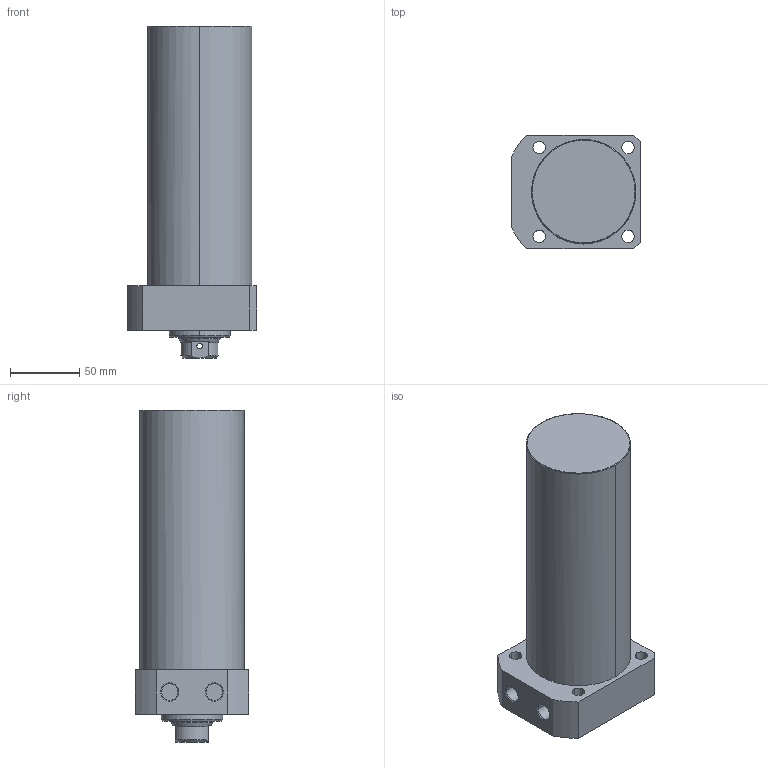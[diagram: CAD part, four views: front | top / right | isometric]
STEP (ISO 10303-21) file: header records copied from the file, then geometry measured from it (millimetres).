
FILE_DESCRIPTION((' '),'2;1');
FILE_NAME( 'TLLR-075CB-150.STEP.stp', '2025-10-24T16:35:10', (' '), ('--- Datakit www.datakit.com---'), ' Datakit CrossCadWare V2024.1 Dec 21 2023', 'Mastercam 2025', ' ');
FILE_SCHEMA(('AUTOMOTIVE_DESIGN { 1 0 10303 214 1 1 1 1 }'));
Length unit declared in the file: millimetre
Products named in the file (1): TLLR-075CB-150
Bounding box: 93 x 82 x 239 mm (x, y, z)
Volume: 1061113.4 mm3; surface area: 77800.9 mm2
Topology: 1 solids, 1 shells, 67 faces, 197 edges, 136 vertices
Faces by surface type: cylinder 32, plane 19, cone 14, torus 2
Entity records: 3386 total; most frequent: CARTESIAN_POINT 1467, DIRECTION 426, ORIENTED_EDGE 390, EDGE_CURVE 195, AXIS2_PLACEMENT_3D 179, VERTEX_POINT 136, CIRCLE 111, EDGE_LOOP 85
